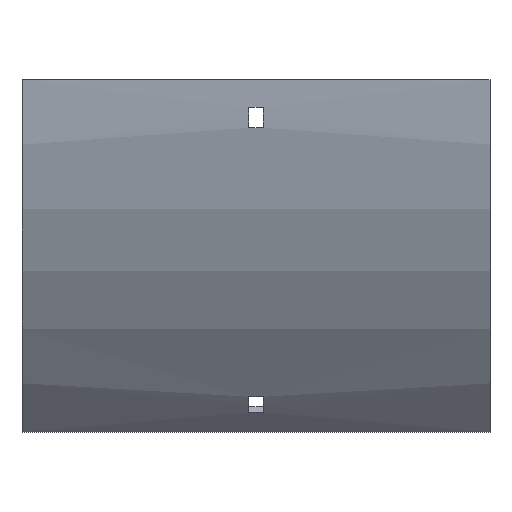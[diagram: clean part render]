
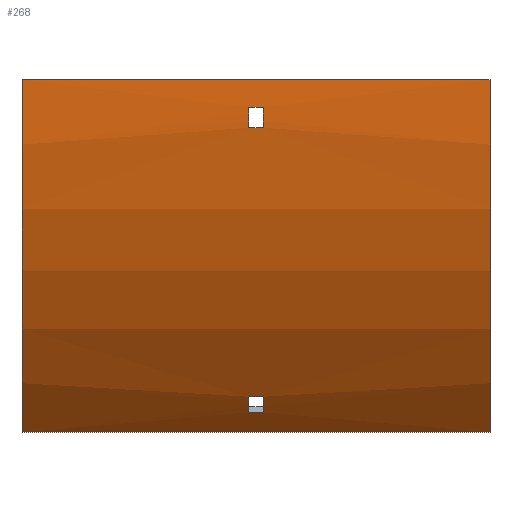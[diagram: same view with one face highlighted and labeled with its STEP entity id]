
A CAD part, front view. The second image highlights one B-rep face of the part: STEP entity #268.
In plain terms, the highlighted cylindrical face has radius 217.5 mm (diameter 435 mm), a partial arc.
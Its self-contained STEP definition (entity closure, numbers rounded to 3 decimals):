
#53 = VECTOR ( 'NONE', #635, 1000. ) ;
#55 = EDGE_LOOP ( 'NONE', ( #845, #1540, #1568, #1012 ) ) ;
#76 = EDGE_CURVE ( 'NONE', #288, #234, #733, .T. ) ;
#116 = DIRECTION ( 'NONE',  ( -1., 0., 0. ) ) ;
#131 = ORIENTED_EDGE ( 'NONE', *, *, #530, .T. ) ;
#136 = LINE ( 'NONE', #657, #707 ) ;
#138 = CARTESIAN_POINT ( 'NONE',  ( 102., -117.5, 0. ) ) ;
#170 = CARTESIAN_POINT ( 'NONE',  ( 102., -117.5, 0. ) ) ;
#174 = AXIS2_PLACEMENT_3D ( 'NONE', #934, #193, #451 ) ;
#193 = DIRECTION ( 'NONE',  ( 1., 0., 0. ) ) ;
#210 = EDGE_CURVE ( 'NONE', #809, #288, #373, .T. ) ;
#227 = DIRECTION ( 'NONE',  ( 1., 0., 0. ) ) ;
#230 = VECTOR ( 'NONE', #823, 1000. ) ;
#233 = CARTESIAN_POINT ( 'NONE',  ( -3.25, -62.047, -145.076 ) ) ;
#234 = VERTEX_POINT ( 'NONE', #1613 ) ;
#268 = ADVANCED_FACE ( 'NONE', ( #1466, #708, #695 ), #1100, .T. ) ;
#269 = VERTEX_POINT ( 'NONE', #1486 ) ;
#288 = VERTEX_POINT ( 'NONE', #1096 ) ;
#328 = CIRCLE ( 'NONE', #1241, 217.5 ) ;
#368 = VERTEX_POINT ( 'NONE', #485 ) ;
#373 = LINE ( 'NONE', #1429, #230 ) ;
#387 = EDGE_LOOP ( 'NONE', ( #131, #1125, #1403, #526 ) ) ;
#399 = EDGE_CURVE ( 'NONE', #1537, #945, #924, .T. ) ;
#413 = CARTESIAN_POINT ( 'NONE',  ( 102., -67.926, -138.228 ) ) ;
#414 = CARTESIAN_POINT ( 'NONE',  ( -3.25, 100., 0. ) ) ;
#434 = ORIENTED_EDGE ( 'NONE', *, *, #1402, .T. ) ;
#451 = DIRECTION ( 'NONE',  ( 0., 0., -1. ) ) ;
#467 = LINE ( 'NONE', #1476, #1288 ) ;
#478 = CARTESIAN_POINT ( 'NONE',  ( 102., 100., 0. ) ) ;
#485 = CARTESIAN_POINT ( 'NONE',  ( -3.25, -116.484, -21. ) ) ;
#490 = AXIS2_PLACEMENT_3D ( 'NONE', #641, #1573, #1170 ) ;
#496 = VECTOR ( 'NONE', #690, 1000. ) ;
#526 = ORIENTED_EDGE ( 'NONE', *, *, #782, .T. ) ;
#530 = EDGE_CURVE ( 'NONE', #957, #368, #136, .T. ) ;
#562 = DIRECTION ( 'NONE',  ( -1., 0., 0. ) ) ;
#605 = VECTOR ( 'NONE', #562, 1000. ) ;
#618 = LINE ( 'NONE', #1259, #53 ) ;
#630 = CIRCLE ( 'NONE', #856, 217.5 ) ;
#635 = DIRECTION ( 'NONE',  ( -1., 0., 0. ) ) ;
#639 = EDGE_CURVE ( 'NONE', #269, #985, #467, .T. ) ;
#641 = CARTESIAN_POINT ( 'NONE',  ( 3.25, 100., 0. ) ) ;
#657 = CARTESIAN_POINT ( 'NONE',  ( 102., -116.484, -21. ) ) ;
#682 = ORIENTED_EDGE ( 'NONE', *, *, #1558, .T. ) ;
#690 = DIRECTION ( 'NONE',  ( -1., 0., 0. ) ) ;
#695 = FACE_BOUND ( 'NONE', #55, .T. ) ;
#707 = VECTOR ( 'NONE', #116, 1000. ) ;
#708 = FACE_BOUND ( 'NONE', #387, .T. ) ;
#733 = CIRCLE ( 'NONE', #490, 217.5 ) ;
#750 = EDGE_CURVE ( 'NONE', #945, #1129, #618, .T. ) ;
#761 = DIRECTION ( 'NONE',  ( 1., 0., 0. ) ) ;
#782 = EDGE_CURVE ( 'NONE', #985, #957, #965, .T. ) ;
#783 = CARTESIAN_POINT ( 'NONE',  ( -3.25, 100., 0. ) ) ;
#809 = VERTEX_POINT ( 'NONE', #233 ) ;
#823 = DIRECTION ( 'NONE',  ( 1., 0., 0. ) ) ;
#831 = DIRECTION ( 'NONE',  ( 0., 0., 1. ) ) ;
#845 = ORIENTED_EDGE ( 'NONE', *, *, #1693, .F. ) ;
#856 = AXIS2_PLACEMENT_3D ( 'NONE', #783, #761, #1526 ) ;
#924 = CIRCLE ( 'NONE', #1416, 217.5 ) ;
#934 = CARTESIAN_POINT ( 'NONE',  ( -102., 100., 0. ) ) ;
#945 = VERTEX_POINT ( 'NONE', #1069 ) ;
#957 = VERTEX_POINT ( 'NONE', #1589 ) ;
#965 = CIRCLE ( 'NONE', #1260, 217.5 ) ;
#981 = LINE ( 'NONE', #413, #605 ) ;
#985 = VERTEX_POINT ( 'NONE', #1344 ) ;
#996 = DIRECTION ( 'NONE',  ( 1., 0., 0. ) ) ;
#1003 = CARTESIAN_POINT ( 'NONE',  ( -102., -53.796, -153.796 ) ) ;
#1012 = ORIENTED_EDGE ( 'NONE', *, *, #210, .F. ) ;
#1019 = ORIENTED_EDGE ( 'NONE', *, *, #750, .F. ) ;
#1069 = CARTESIAN_POINT ( 'NONE',  ( 102., -53.796, -153.796 ) ) ;
#1096 = CARTESIAN_POINT ( 'NONE',  ( 3.25, -62.047, -145.076 ) ) ;
#1100 = CYLINDRICAL_SURFACE ( 'NONE', #1445, 217.5 ) ;
#1108 = DIRECTION ( 'NONE',  ( -1., 0., 0. ) ) ;
#1125 = ORIENTED_EDGE ( 'NONE', *, *, #1289, .T. ) ;
#1129 = VERTEX_POINT ( 'NONE', #1003 ) ;
#1143 = DIRECTION ( 'NONE',  ( 0., 0., -1. ) ) ;
#1165 = DIRECTION ( 'NONE',  ( 1., 0., 0. ) ) ;
#1170 = DIRECTION ( 'NONE',  ( 0., 0., 1. ) ) ;
#1210 = VERTEX_POINT ( 'NONE', #1388 ) ;
#1216 = CARTESIAN_POINT ( 'NONE',  ( -102., -117.5, 0. ) ) ;
#1219 = CIRCLE ( 'NONE', #174, 217.5 ) ;
#1241 = AXIS2_PLACEMENT_3D ( 'NONE', #414, #1330, #1595 ) ;
#1259 = CARTESIAN_POINT ( 'NONE',  ( 102., -53.796, -153.796 ) ) ;
#1260 = AXIS2_PLACEMENT_3D ( 'NONE', #1542, #1165, #1551 ) ;
#1288 = VECTOR ( 'NONE', #996, 1000. ) ;
#1289 = EDGE_CURVE ( 'NONE', #368, #269, #328, .T. ) ;
#1322 = ORIENTED_EDGE ( 'NONE', *, *, #399, .F. ) ;
#1330 = DIRECTION ( 'NONE',  ( -1., 0., 0. ) ) ;
#1344 = CARTESIAN_POINT ( 'NONE',  ( 3.25, -117.169, -12. ) ) ;
#1350 = LINE ( 'NONE', #170, #496 ) ;
#1388 = CARTESIAN_POINT ( 'NONE',  ( -3.25, -67.926, -138.228 ) ) ;
#1402 = EDGE_CURVE ( 'NONE', #1537, #1596, #1350, .T. ) ;
#1403 = ORIENTED_EDGE ( 'NONE', *, *, #639, .T. ) ;
#1414 = EDGE_LOOP ( 'NONE', ( #682, #1019, #1322, #434 ) ) ;
#1416 = AXIS2_PLACEMENT_3D ( 'NONE', #478, #227, #1143 ) ;
#1429 = CARTESIAN_POINT ( 'NONE',  ( 102., -62.047, -145.076 ) ) ;
#1445 = AXIS2_PLACEMENT_3D ( 'NONE', #1623, #1108, #831 ) ;
#1466 = FACE_OUTER_BOUND ( 'NONE', #1414, .T. ) ;
#1476 = CARTESIAN_POINT ( 'NONE',  ( 102., -117.169, -12. ) ) ;
#1486 = CARTESIAN_POINT ( 'NONE',  ( -3.25, -117.169, -12. ) ) ;
#1526 = DIRECTION ( 'NONE',  ( 0., 0., -1. ) ) ;
#1537 = VERTEX_POINT ( 'NONE', #138 ) ;
#1540 = ORIENTED_EDGE ( 'NONE', *, *, #1592, .F. ) ;
#1542 = CARTESIAN_POINT ( 'NONE',  ( 3.25, 100., 0. ) ) ;
#1551 = DIRECTION ( 'NONE',  ( 0., 0., -1. ) ) ;
#1558 = EDGE_CURVE ( 'NONE', #1596, #1129, #1219, .T. ) ;
#1568 = ORIENTED_EDGE ( 'NONE', *, *, #76, .F. ) ;
#1573 = DIRECTION ( 'NONE',  ( -1., 0., 0. ) ) ;
#1589 = CARTESIAN_POINT ( 'NONE',  ( 3.25, -116.484, -21. ) ) ;
#1592 = EDGE_CURVE ( 'NONE', #234, #1210, #981, .T. ) ;
#1595 = DIRECTION ( 'NONE',  ( 0., 0., 1. ) ) ;
#1596 = VERTEX_POINT ( 'NONE', #1216 ) ;
#1613 = CARTESIAN_POINT ( 'NONE',  ( 3.25, -67.926, -138.228 ) ) ;
#1623 = CARTESIAN_POINT ( 'NONE',  ( 102., 100., 0. ) ) ;
#1693 = EDGE_CURVE ( 'NONE', #1210, #809, #630, .T. ) ;
